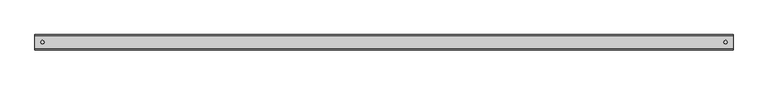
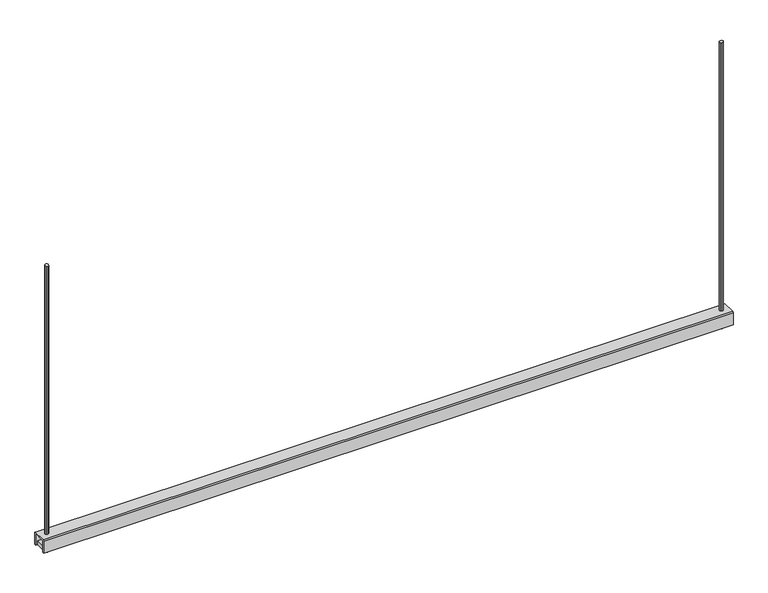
"""IFC4 building model written with IfcOpenShell, lengths in millimetres: proxy geometry, Beared-Hanger : BearedHanger."""

from ifc_helpers import new_model, si_unit, frame, origin, place, context, project, spatial, polyline, outline, extrude, source, transform, mapped, element, save


def mechanical_equipment_394d2465(model_context):
    return source(origin(), model_context, "Body", "SweptSolid", [
        extrude(outline(polyline([(884.3094896, -17.3962402), (884.3094896, 16.7883301), (914.1263841, 16.7883301), (914.1263841, -17.3962402), (884.3094896, -17.3962402)])), frame((0.0, 0.0, -792.5995399), z_axis=(0.0, 0.0, 1.0), x_axis=(1.0, 0.0, 0.0)), (0.0, 0.0, 1.0), 10.0),
        extrude(outline(polyline([(899.2179369, 5.0), (902.7530931, 3.5351562), (904.2185472, 0.0), (902.7530931, -3.5351563), (899.2179369, -5.0), (895.6827806, -3.5351563), (894.2179369, 0.0), (895.6827806, 3.5351562), (899.2179369, 5.0)])), frame((0.0, 0.0, -806.1841346), z_axis=(0.0, 0.0, 1.0), x_axis=(1.0, 0.0, 0.0)), (0.0, 0.0, 1.0), 806.1841346),
        extrude(outline(polyline([(-884.3094896, 16.7883301), (-884.3094896, -17.3962402), (-914.1263841, -17.3962402), (-914.1263841, 16.7883301), (-884.3094896, 16.7883301)])), frame((0.0, 0.0, -792.5995399), z_axis=(0.0, 0.0, 1.0), x_axis=(1.0, 0.0, 0.0)), (0.0, 0.0, 1.0), 10.0),
        extrude(outline(polyline([(-899.2179369, 5.0), (-895.6827806, 3.5351563), (-894.2179369, 0.0), (-895.6827806, -3.5351562), (-899.2179369, -5.0), (-902.7530931, -3.5351562), (-904.2185472, 0.0), (-902.7530931, 3.5351563), (-899.2179369, 5.0)])), frame((0.0, 0.0, -806.1841346), z_axis=(0.0, 0.0, 1.0), x_axis=(1.0, 0.0, 0.0)), (0.0, 0.0, 1.0), 806.1841346),
        extrude(outline(polyline([(-17.8259277, -756.1841346), (17.1740723, -756.1841346), (19.6740723, -758.6838295), (19.6740723, -792.5995399), (16.7883301, -792.5995399), (16.7883301, -759.1840126), (-17.3962402, -759.1840126), (-17.3962402, -792.5995399), (-20.3259277, -792.5995399), (-20.3259277, -758.6838295), (-17.8259277, -756.1841346)])), frame((-919.0589905, 0.0, 0.0), z_axis=(1.0, 0.0, 0.0), x_axis=(0.0, 1.0, 0.0)), (0.0, 0.0, 1.0), 1838.117981),
    ])


if __name__ == "__main__":
    model = new_model("IFC4")
    model_context = context("Model", 3, world=origin())
    ifc_project = project(units=[si_unit("LENGTHUNIT", "METRE", prefix="MILLI")], contexts=[model_context])
    site = spatial("IfcSite", under=ifc_project)
    building = spatial("IfcBuilding", under=site)
    placement = place(None, origin())
    mechanical_equipment_shape = mechanical_equipment_394d2465(model_context)
    element("IfcBuildingElementProxy", 1, Name="Beared-Hanger : BearedHanger", ObjectType="Beared-Hanger : BearedHanger", at=placement, inside=building, context=model_context, shape_type="MappedRepresentation", body=[
        mapped(mechanical_equipment_shape, transform((0.0, 0.0, 0.0), x_axis=(1.0, 0.0, 0.0), y_axis=(0.0, 1.0, 0.0), z_axis=(0.0, 0.0, 1.0))),
    ])
    save(model, "model.ifc")
